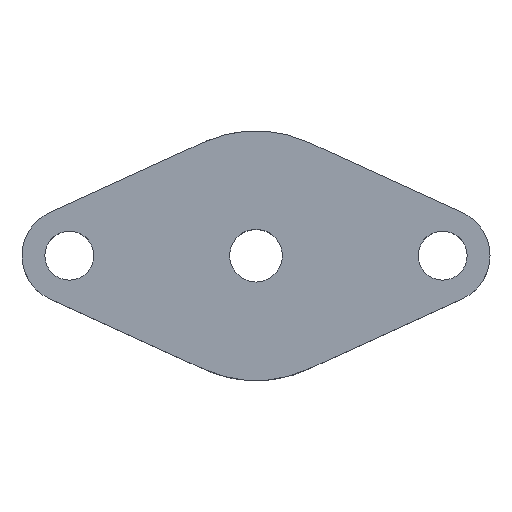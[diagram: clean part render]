
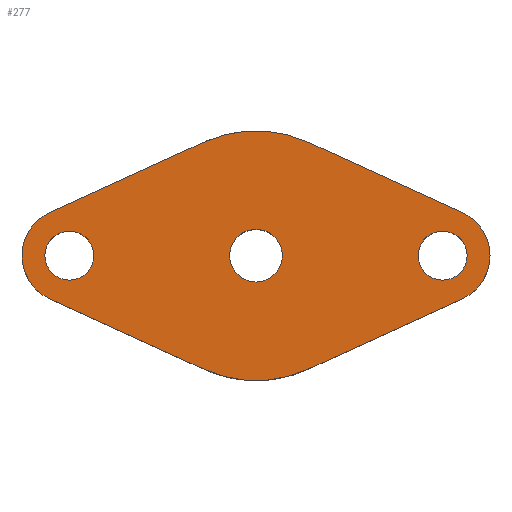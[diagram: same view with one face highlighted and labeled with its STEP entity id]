
A CAD part, top view. The second image highlights one B-rep face of the part: STEP entity #277.
In plain terms, the highlighted planar face has unit normal (0, 0, 1).
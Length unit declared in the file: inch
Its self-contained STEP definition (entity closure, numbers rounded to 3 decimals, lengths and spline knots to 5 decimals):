
#28=LINE('',#436,#44);
#34=LINE('',#454,#50);
#38=LINE('',#464,#54);
#39=LINE('',#467,#55);
#44=VECTOR('',#357,1.61282);
#50=VECTOR('',#373,1.61282);
#54=VECTOR('',#385,1.61282);
#55=VECTOR('',#388,1.61282);
#65=FACE_BOUND('',#108,.T.);
#66=FACE_BOUND('',#109,.T.);
#67=FACE_BOUND('',#110,.T.);
#83=FACE_OUTER_BOUND('',#107,.T.);
#107=EDGE_LOOP('',(#238,#239,#240,#241,#242,#243,#244,#245));
#108=EDGE_LOOP('',(#246));
#109=EDGE_LOOP('',(#247));
#110=EDGE_LOOP('',(#248));
#120=CIRCLE('',#293,0.25);
#121=CIRCLE('',#295,0.2325);
#123=CIRCLE('',#298,0.2325);
#124=CIRCLE('',#301,1.1875);
#126=CIRCLE('',#303,1.1875);
#128=CIRCLE('',#307,0.45);
#129=CIRCLE('',#311,0.45);
#139=VERTEX_POINT('',#422);
#140=VERTEX_POINT('',#425);
#142=VERTEX_POINT('',#430);
#143=VERTEX_POINT('',#433);
#144=VERTEX_POINT('',#435);
#145=VERTEX_POINT('',#439);
#148=VERTEX_POINT('',#445);
#149=VERTEX_POINT('',#447);
#151=VERTEX_POINT('',#453);
#153=VERTEX_POINT('',#459);
#154=VERTEX_POINT('',#466);
#164=EDGE_CURVE('',#139,#139,#120,.T.);
#165=EDGE_CURVE('',#140,#140,#121,.T.);
#167=EDGE_CURVE('',#142,#142,#123,.T.);
#169=EDGE_CURVE('',#144,#143,#28,.T.);
#171=EDGE_CURVE('',#145,#144,#124,.T.);
#175=EDGE_CURVE('',#149,#148,#126,.T.);
#178=EDGE_CURVE('',#151,#145,#34,.T.);
#181=EDGE_CURVE('',#153,#151,#128,.T.);
#184=EDGE_CURVE('',#148,#153,#38,.T.);
#185=EDGE_CURVE('',#154,#149,#39,.T.);
#187=EDGE_CURVE('',#143,#154,#129,.T.);
#238=ORIENTED_EDGE('',*,*,#187,.T.);
#239=ORIENTED_EDGE('',*,*,#185,.T.);
#240=ORIENTED_EDGE('',*,*,#175,.T.);
#241=ORIENTED_EDGE('',*,*,#184,.T.);
#242=ORIENTED_EDGE('',*,*,#181,.T.);
#243=ORIENTED_EDGE('',*,*,#178,.T.);
#244=ORIENTED_EDGE('',*,*,#171,.T.);
#245=ORIENTED_EDGE('',*,*,#169,.T.);
#246=ORIENTED_EDGE('',*,*,#164,.T.);
#247=ORIENTED_EDGE('',*,*,#165,.T.);
#248=ORIENTED_EDGE('',*,*,#167,.T.);
#261=PLANE('',#312);
#277=ADVANCED_FACE('',(#83,#65,#66,#67),#261,.T.);
#293=AXIS2_PLACEMENT_3D('',#423,#342,#343);
#295=AXIS2_PLACEMENT_3D('',#426,#346,#347);
#298=AXIS2_PLACEMENT_3D('',#431,#352,#353);
#301=AXIS2_PLACEMENT_3D('',#440,#361,#362);
#303=AXIS2_PLACEMENT_3D('',#448,#367,#368);
#307=AXIS2_PLACEMENT_3D('',#460,#379,#380);
#311=AXIS2_PLACEMENT_3D('',#470,#392,#393);
#312=AXIS2_PLACEMENT_3D('',#471,#394,#395);
#342=DIRECTION('center_axis',(0.,0.,-1.));
#343=DIRECTION('ref_axis',(-1.,0.,0.));
#346=DIRECTION('center_axis',(0.,0.,-1.));
#347=DIRECTION('ref_axis',(-1.,0.,0.));
#352=DIRECTION('center_axis',(0.,0.,-1.));
#353=DIRECTION('ref_axis',(-1.,0.,0.));
#357=DIRECTION('',(-0.909,-0.416,0.));
#361=DIRECTION('center_axis',(0.,0.,1.));
#362=DIRECTION('ref_axis',(0.416,0.909,0.));
#367=DIRECTION('center_axis',(0.,0.,1.));
#368=DIRECTION('ref_axis',(-0.416,-0.909,0.));
#373=DIRECTION('',(-0.909,0.416,0.));
#379=DIRECTION('center_axis',(0.,0.,1.));
#380=DIRECTION('ref_axis',(0.416,-0.909,0.));
#385=DIRECTION('',(0.909,0.416,0.));
#388=DIRECTION('',(0.909,-0.416,0.));
#392=DIRECTION('center_axis',(0.,0.,1.));
#393=DIRECTION('ref_axis',(-0.416,0.909,0.));
#394=DIRECTION('center_axis',(0.,0.,1.));
#395=DIRECTION('ref_axis',(1.,0.,0.));
#422=CARTESIAN_POINT('',(0.25,0.,0.5));
#423=CARTESIAN_POINT('Origin',(0.,0.,0.5));
#425=CARTESIAN_POINT('',(2.00594,0.,0.5));
#426=CARTESIAN_POINT('Origin',(1.77344,0.,0.5));
#430=CARTESIAN_POINT('',(-1.54094,0.,0.5));
#431=CARTESIAN_POINT('Origin',(-1.77344,0.,0.5));
#433=CARTESIAN_POINT('',(-1.96057,0.40924,0.5));
#435=CARTESIAN_POINT('',(-0.49383,1.07995,0.5));
#436=CARTESIAN_POINT('',(-0.49383,1.07995,0.5));
#439=CARTESIAN_POINT('',(0.49383,1.07995,0.5));
#440=CARTESIAN_POINT('Origin',(0.,0.,0.5));
#445=CARTESIAN_POINT('',(0.49383,-1.07995,0.5));
#447=CARTESIAN_POINT('',(-0.49383,-1.07995,0.5));
#448=CARTESIAN_POINT('Origin',(0.,0.,0.5));
#453=CARTESIAN_POINT('',(1.96057,0.40924,0.5));
#454=CARTESIAN_POINT('',(1.96057,0.40924,0.5));
#459=CARTESIAN_POINT('',(1.96057,-0.40924,0.5));
#460=CARTESIAN_POINT('Origin',(1.77344,0.,0.5));
#464=CARTESIAN_POINT('',(0.49383,-1.07995,0.5));
#466=CARTESIAN_POINT('',(-1.96057,-0.40924,0.5));
#467=CARTESIAN_POINT('',(-1.96057,-0.40924,0.5));
#470=CARTESIAN_POINT('Origin',(-1.77344,0.,0.5));
#471=CARTESIAN_POINT('Origin',(0.,0.,0.5));
